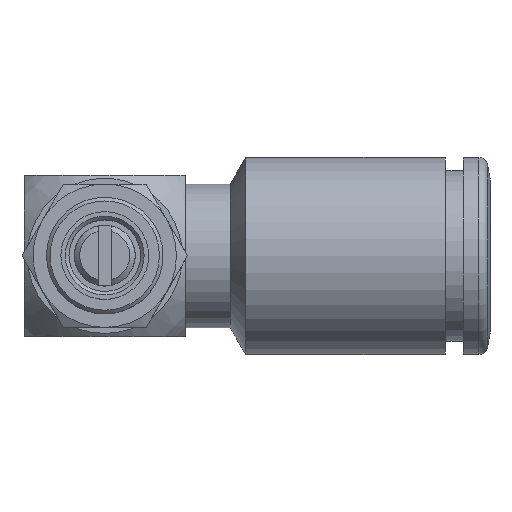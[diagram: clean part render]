
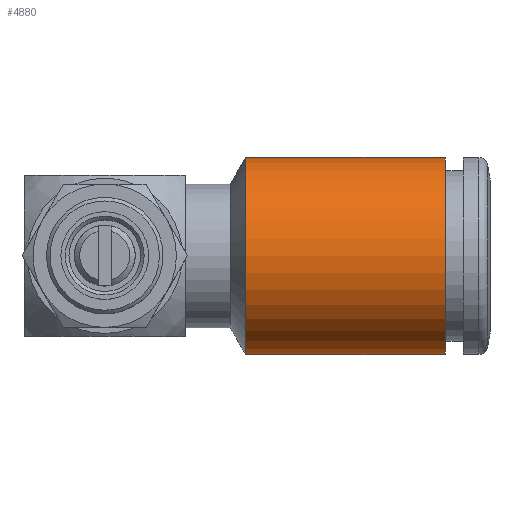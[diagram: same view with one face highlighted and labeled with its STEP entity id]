
A CAD part, top view. The second image highlights one B-rep face of the part: STEP entity #4880.
In plain terms, the highlighted cylindrical face has radius 5.5 mm (diameter 11 mm), a full revolution.
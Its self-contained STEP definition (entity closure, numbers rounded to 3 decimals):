
#4880=ADVANCED_FACE('', (#4890,#4900), #4910, .T.);
#13820=AXIS2_PLACEMENT_3D('Ax2Pl3d', #13830, #13840, #13850);
#15740=AXIS2_PLACEMENT_3D('Ax2Pl3d', #15750, #15760, #15770);
#15780=AXIS2_PLACEMENT_3D('Ax2Pl3d', #15790, #15800, #15810);
#13830=CARTESIAN_POINT('HicPkt', (27.259,9.502,
18.419));
#89860=CARTESIAN_POINT('', (27.259,9.502,23.919));
#15750=CARTESIAN_POINT('HicPkt', (16.125,9.502,
18.419));
#90160=CARTESIAN_POINT('', (16.125,9.502,23.919));
#15790=CARTESIAN_POINT('HicPkt', (27.259,9.502,
18.419));
#91180=CIRCLE('Circle', #13820, 5.5);
#91440=CIRCLE('Circle', #15740, 5.5);
#4910=CYLINDRICAL_SURFACE('Zyl', #15780, 5.5);
#13840=DIRECTION('Axis', (-1.,0.,
0.));
#13850=DIRECTION('RefDirection', (0.,
0.,-1.));
#15760=DIRECTION('Axis', (-1.,0.,0.)
);
#15770=DIRECTION('RefDirection', (0.,
0.,-1.));
#15800=DIRECTION('Axis', (-1.,0.,0.)
);
#15810=DIRECTION('RefDirection', (0.,
0.,-1.));
#101330=EDGE_CURVE('', #101340, #101340, #91180, .T.);
#101930=EDGE_CURVE('', #101940, #101940, #91440, .T.);
#108070=EDGE_LOOP('Edge_loop', (#108080));
#108090=EDGE_LOOP('Edge_loop', (#108100));
#4900=FACE_BOUND('', #108090, .T.);
#4890=FACE_OUTER_BOUND('Face_outer_bound', #108070, .T.);
#108080=ORIENTED_EDGE('', *, *, #101930, .F.);
#108100=ORIENTED_EDGE('', *, *, #101330, .T.);
#101340=VERTEX_POINT('', #89860);
#101940=VERTEX_POINT('', #90160);
